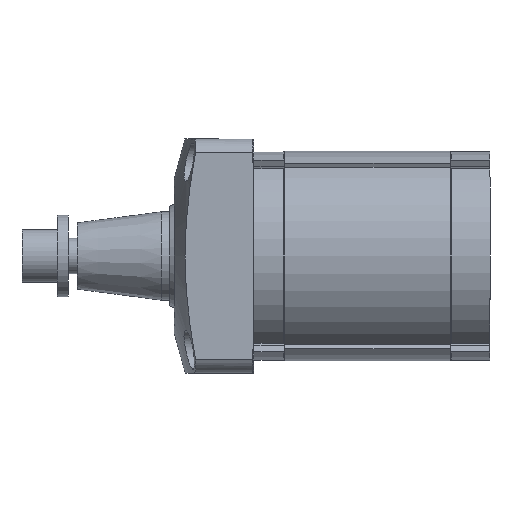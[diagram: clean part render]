
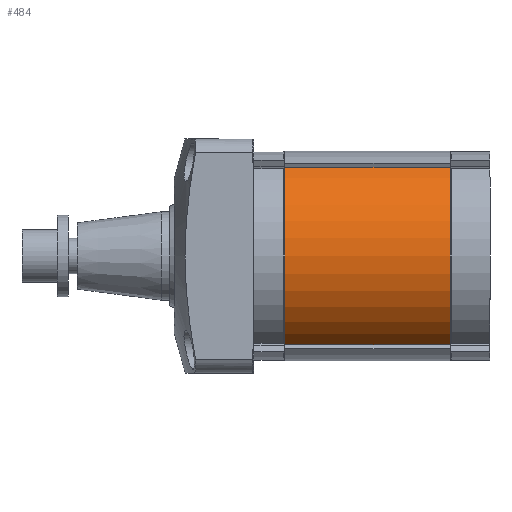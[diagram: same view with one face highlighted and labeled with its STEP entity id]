
A CAD part, left-side view. The second image highlights one B-rep face of the part: STEP entity #484.
In plain terms, the highlighted cylindrical face has radius 47.5 mm (diameter 95 mm), a partial arc.
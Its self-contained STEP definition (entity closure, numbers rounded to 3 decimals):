
#484 = ADVANCED_FACE( '', ( #848 ), #849, .T. );
#848 = FACE_OUTER_BOUND( '', #1443, .T. );
#849 = CYLINDRICAL_SURFACE( '', #1444, 47.5 );
#1443 = EDGE_LOOP( '', ( #2667, #2668, #2669, #2670 ) );
#1444 = AXIS2_PLACEMENT_3D( '', #2671, #2672, #2673 );
#2667 = ORIENTED_EDGE( '', *, *, #4029, .F. );
#2668 = ORIENTED_EDGE( '', *, *, #3984, .F. );
#2669 = ORIENTED_EDGE( '', *, *, #4028, .T. );
#2670 = ORIENTED_EDGE( '', *, *, #3902, .T. );
#2671 = CARTESIAN_POINT( '', ( 0., -89., 0. ) );
#2672 = DIRECTION( '', ( 0., -1., 0. ) );
#2673 = DIRECTION( '', ( 1., 0., 0. ) );
#3902 = EDGE_CURVE( '', #4637, #4635, #4638, .T. );
#3984 = EDGE_CURVE( '', #4782, #4784, #4785, .T. );
#4028 = EDGE_CURVE( '', #4782, #4637, #4848, .T. );
#4029 = EDGE_CURVE( '', #4784, #4635, #4849, .T. );
#4635 = VERTEX_POINT( '', #5862 );
#4637 = VERTEX_POINT( '', #5865 );
#4638 = CIRCLE( '', #5866, 47.5 );
#4782 = VERTEX_POINT( '', #6068 );
#4784 = VERTEX_POINT( '', #6071 );
#4785 = CIRCLE( '', #6072, 47.5 );
#4848 = LINE( '', #6167, #6168 );
#4849 = LINE( '', #6169, #6170 );
#5862 = CARTESIAN_POINT( '', ( -25.122, -14., -40.313 ) );
#5865 = CARTESIAN_POINT( '', ( -25.122, -14., 40.313 ) );
#5866 = AXIS2_PLACEMENT_3D( '', #7487, #7488, #7489 );
#6068 = CARTESIAN_POINT( '', ( -25.122, -89., 40.313 ) );
#6071 = CARTESIAN_POINT( '', ( -25.122, -89., -40.313 ) );
#6072 = AXIS2_PLACEMENT_3D( '', #7615, #7616, #7617 );
#6167 = CARTESIAN_POINT( '', ( -25.122, -167.867, 40.313 ) );
#6168 = VECTOR( '', #7683, 1000. );
#6169 = CARTESIAN_POINT( '', ( -25.122, -89., -40.313 ) );
#6170 = VECTOR( '', #7684, 1000. );
#7487 = CARTESIAN_POINT( '', ( 0., -14., 0. ) );
#7488 = DIRECTION( '', ( 0., -1., 0. ) );
#7489 = DIRECTION( '', ( 0., 0., -1. ) );
#7615 = CARTESIAN_POINT( '', ( 0., -89., 0. ) );
#7616 = DIRECTION( '', ( 0., -1., 0. ) );
#7617 = DIRECTION( '', ( 0., 0., -1. ) );
#7683 = DIRECTION( '', ( 0., 1., 0. ) );
#7684 = DIRECTION( '', ( 0., 1., 0. ) );
